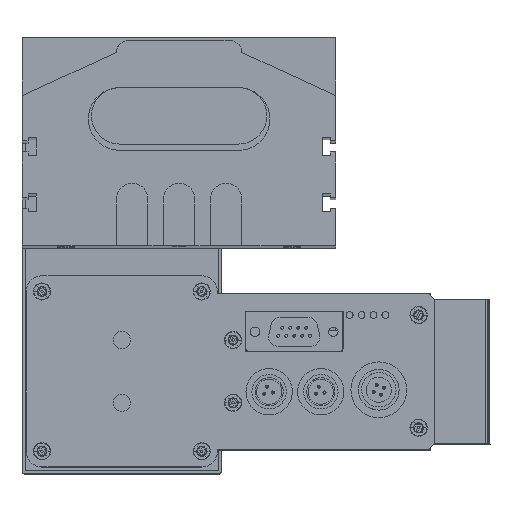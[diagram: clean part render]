
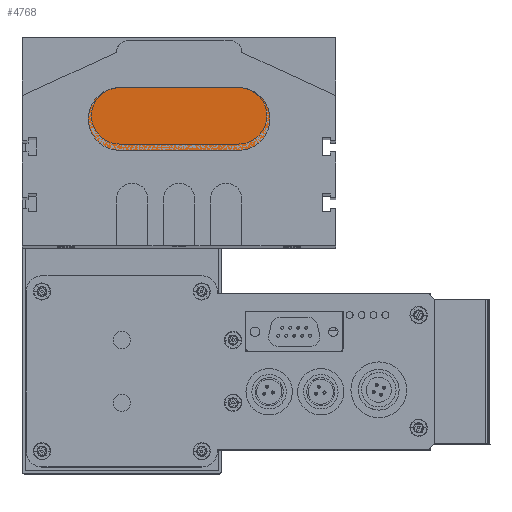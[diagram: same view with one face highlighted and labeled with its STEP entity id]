
A CAD part, top view. The second image highlights one B-rep face of the part: STEP entity #4768.
In plain terms, the highlighted planar face has unit normal (0, 0, 1).
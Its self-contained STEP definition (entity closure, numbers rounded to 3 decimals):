
#2640 = VERTEX_POINT ( 'NONE', #12875 ) ;
#3261 = EDGE_CURVE ( 'NONE', #3275, #2640, #13056, .T. ) ;
#3275 = VERTEX_POINT ( 'NONE', #13103 ) ;
#4594 = VERTEX_POINT ( 'NONE', #15340 ) ;
#4623 = EDGE_CURVE ( 'NONE', #4594, #3275, #15412, .T. ) ;
#4636 = ORIENTED_EDGE ( 'NONE', *, *, #3261, .T. ) ;
#4643 = VERTEX_POINT ( 'NONE', #15392 ) ;
#4657 = EDGE_CURVE ( 'NONE', #2640, #4671, #15425, .T. ) ;
#4663 = EDGE_CURVE ( 'NONE', #4643, #4594, #15472, .T. ) ;
#4671 = VERTEX_POINT ( 'NONE', #15505 ) ;
#4673 = ORIENTED_EDGE ( 'NONE', *, *, #4623, .T. ) ;
#4702 = ORIENTED_EDGE ( 'NONE', *, *, #4727, .T. ) ;
#4727 = EDGE_CURVE ( 'NONE', #4671, #4643, #14498, .T. ) ;
#4768 = ADVANCED_FACE ( 'NONE', ( #15669 ), #15614, .T. ) ;
#4774 = ORIENTED_EDGE ( 'NONE', *, *, #4657, .T. ) ;
#4812 = EDGE_LOOP ( 'NONE', ( #4673, #4636, #4774, #4702, #4850 ) ) ;
#4850 = ORIENTED_EDGE ( 'NONE', *, *, #4663, .T. ) ;
#12875 = CARTESIAN_POINT ( 'NONE',  ( 0., 0., 10. ) ) ;
#13056 = CIRCLE ( 'NONE', #13079, 10. ) ;
#13079 = AXIS2_PLACEMENT_3D ( 'NONE', #13113, #13112, #13111 ) ;
#13103 = CARTESIAN_POINT ( 'NONE',  ( -10., 10., 10. ) ) ;
#13111 = DIRECTION ( 'NONE',  ( 1., 0., 0. ) ) ;
#13112 = DIRECTION ( 'NONE',  ( 0., 0., 1. ) ) ;
#13113 = CARTESIAN_POINT ( 'NONE',  ( 0., 10., 10. ) ) ;
#14498 = CIRCLE ( 'NONE', #14773, 10. ) ;
#14773 = AXIS2_PLACEMENT_3D ( 'NONE', #15044, #15287, #15298 ) ;
#15044 = CARTESIAN_POINT ( 'NONE',  ( 38., 10., 10. ) ) ;
#15287 = DIRECTION ( 'NONE',  ( 0., 0., 1. ) ) ;
#15298 = DIRECTION ( 'NONE',  ( -1., 0., 0. ) ) ;
#15340 = CARTESIAN_POINT ( 'NONE',  ( 0., 20., 10. ) ) ;
#15392 = CARTESIAN_POINT ( 'NONE',  ( 38., 20., 10. ) ) ;
#15397 = DIRECTION ( 'NONE',  ( 1., 0., 0. ) ) ;
#15402 = CARTESIAN_POINT ( 'NONE',  ( 0., 10., 10. ) ) ;
#15404 = AXIS2_PLACEMENT_3D ( 'NONE', #15402, #15406, #15397 ) ;
#15406 = DIRECTION ( 'NONE',  ( 0., 0., 1. ) ) ;
#15412 = CIRCLE ( 'NONE', #15404, 10. ) ;
#15425 = LINE ( 'NONE', #15478, #15477 ) ;
#15467 = DIRECTION ( 'NONE',  ( -1., 0., 0. ) ) ;
#15468 = VECTOR ( 'NONE', #15467, 1000. ) ;
#15469 = CARTESIAN_POINT ( 'NONE',  ( 0., 20., 10. ) ) ;
#15472 = LINE ( 'NONE', #15469, #15468 ) ;
#15476 = DIRECTION ( 'NONE',  ( 1., 0., 0. ) ) ;
#15477 = VECTOR ( 'NONE', #15476, 1000. ) ;
#15478 = CARTESIAN_POINT ( 'NONE',  ( 0., 0., 10. ) ) ;
#15505 = CARTESIAN_POINT ( 'NONE',  ( 38., 0., 10. ) ) ;
#15614 = PLANE ( 'NONE',  #15665 ) ;
#15662 = DIRECTION ( 'NONE',  ( 1., 0., 0. ) ) ;
#15663 = DIRECTION ( 'NONE',  ( 0., 0., 1. ) ) ;
#15664 = CARTESIAN_POINT ( 'NONE',  ( 0., 10., 10. ) ) ;
#15665 = AXIS2_PLACEMENT_3D ( 'NONE', #15664, #15663, #15662 ) ;
#15669 = FACE_OUTER_BOUND ( 'NONE', #4812, .T. ) ;
